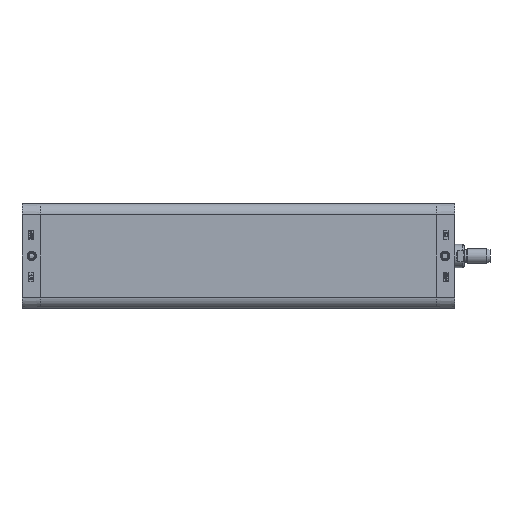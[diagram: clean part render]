
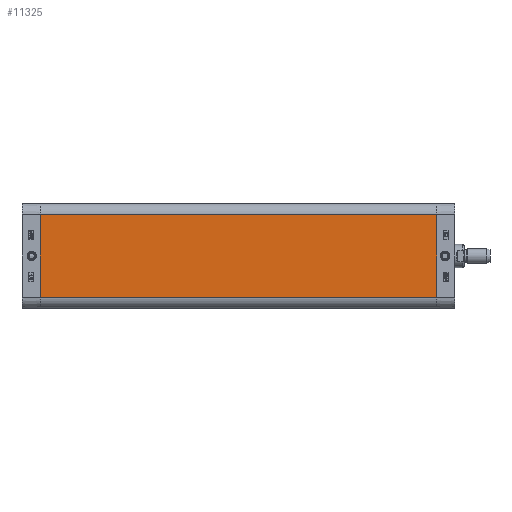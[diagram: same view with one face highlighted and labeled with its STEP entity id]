
A CAD part, left-side view. The second image highlights one B-rep face of the part: STEP entity #11325.
In plain terms, the highlighted planar face has unit normal (-1, 0, 0).
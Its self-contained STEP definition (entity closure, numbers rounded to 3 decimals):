
#5690=CARTESIAN_POINT('',(-56.65,-428.0,44.4));
#5691=VERTEX_POINT('',#5690);
#5698=CARTESIAN_POINT('',(-56.65,-428.0,-44.4));
#5699=VERTEX_POINT('',#5698);
#5700=CARTESIAN_POINT('',(-56.65,-428.0,-44.4));
#5701=DIRECTION('',(0.0,0.0,1.0));
#5702=VECTOR('',#5701,88.8);
#5703=LINE('',#5700,#5702);
#5704=EDGE_CURVE('',#5699,#5691,#5703,.T.);
#11283=CARTESIAN_POINT('',(-56.65,0.0,-44.4));
#11284=VERTEX_POINT('',#11283);
#11285=CARTESIAN_POINT('',(-56.65,0.0,-44.4));
#11286=DIRECTION('',(0.0,-1.0,0.0));
#11287=VECTOR('',#11286,428.0);
#11288=LINE('',#11285,#11287);
#11289=EDGE_CURVE('',#11284,#5699,#11288,.T.);
#11302=CARTESIAN_POINT('',(-56.65,0.0,-44.4));
#11303=DIRECTION('',(-1.0,0.0,0.0));
#11304=DIRECTION('',(0.0,0.0,1.0));
#11305=AXIS2_PLACEMENT_3D('',#11302,#11303,#11304);
#11306=PLANE('',#11305);
#11307=ORIENTED_EDGE('',*,*,#5704,.T.);
#11308=CARTESIAN_POINT('',(-56.65,0.0,44.4));
#11309=VERTEX_POINT('',#11308);
#11310=CARTESIAN_POINT('',(-56.65,0.0,44.4));
#11311=DIRECTION('',(0.0,-1.0,0.0));
#11312=VECTOR('',#11311,428.0);
#11313=LINE('',#11310,#11312);
#11314=EDGE_CURVE('',#11309,#5691,#11313,.T.);
#11315=ORIENTED_EDGE('',*,*,#11314,.F.);
#11316=CARTESIAN_POINT('',(-56.65,0.0,-44.4));
#11317=DIRECTION('',(0.0,0.0,1.0));
#11318=VECTOR('',#11317,88.8);
#11319=LINE('',#11316,#11318);
#11320=EDGE_CURVE('',#11284,#11309,#11319,.T.);
#11321=ORIENTED_EDGE('',*,*,#11320,.F.);
#11322=ORIENTED_EDGE('',*,*,#11289,.T.);
#11323=EDGE_LOOP('',(#11307,#11315,#11321,#11322));
#11324=FACE_OUTER_BOUND('',#11323,.T.);
#11325=ADVANCED_FACE('',(#11324),#11306,.T.);
